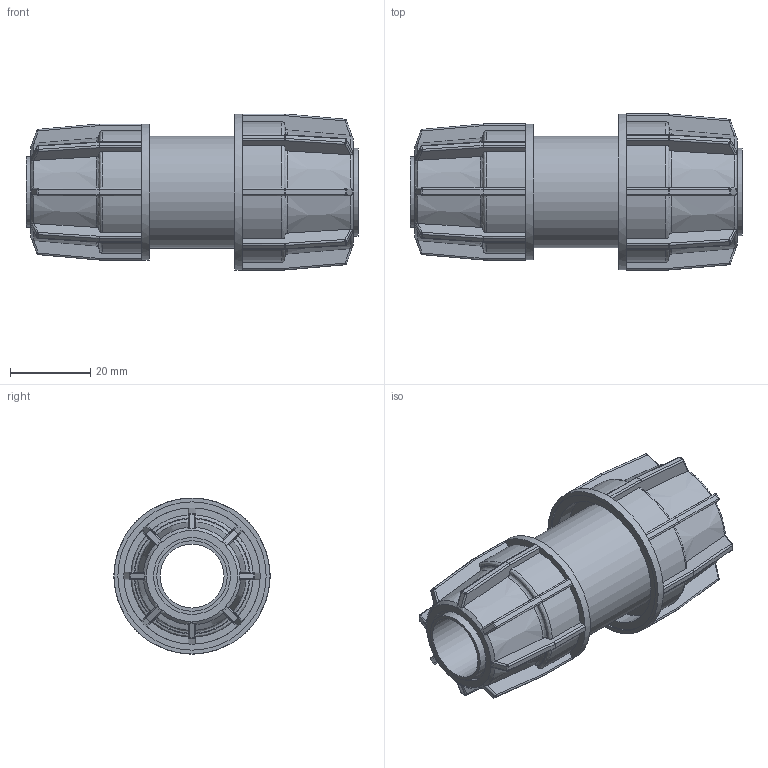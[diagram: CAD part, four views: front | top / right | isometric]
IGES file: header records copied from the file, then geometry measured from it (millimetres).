
Global section: file name: 041107020016.ipt; native system: Autodesk Inventor 2015; preprocessor: unknown; author: KIM; date: 20180409.130645; units: millimetre
Bounding box: 83 x 39 x 39 mm (x, y, z)
Volume: 38268.9 mm3; surface area: 17823.7 mm2
Topology: 1 solids, 1 shells, 500 faces, 1214 edges, 708 vertices
Faces by surface type: plane 255, cylinder 141, sphere 48, revolution 40, cone 16
Full cylindrical faces by diameter (mm): 17.6 x1, 22 x1, 28 x1, 34 x1, 39 x1
